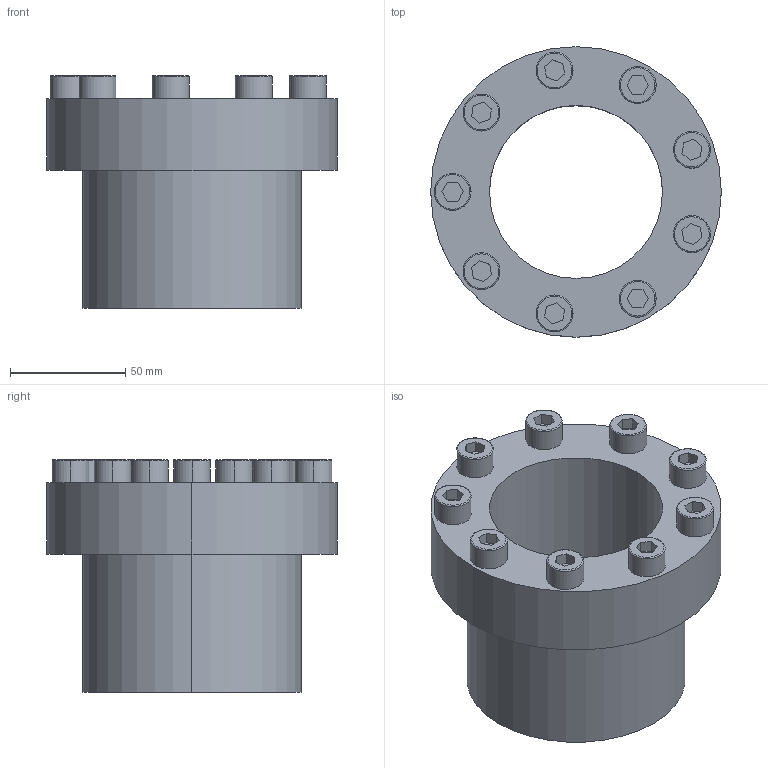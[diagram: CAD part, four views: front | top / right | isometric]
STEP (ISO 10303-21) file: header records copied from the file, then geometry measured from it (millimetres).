
FILE_DESCRIPTION (( 'STEP AP203' ), '1' );
FILE_NAME ('PL-C 75-95.STEP', '2021-10-22T08:46:30', ( '' ), ( '' ), 'SwSTEP 2.0', 'SolidWorks 2018', '' );
FILE_SCHEMA (( 'CONFIG_CONTROL_DESIGN' ));
Length unit declared in the file: millimetre
Products named in the file (1): PL-C 75-95
Bounding box: 126 x 126 x 101 mm (x, y, z)
Volume: 423594.5 mm3; surface area: 73356.9 mm2
Topology: 1 solids, 1 shells, 117 faces, 270 edges, 174 vertices
Faces by surface type: plane 75, cylinder 24, torus 18
Entity records: 3385 total; most frequent: DIRECTION 590, CARTESIAN_POINT 562, ORIENTED_EDGE 540, EDGE_CURVE 270, AXIS2_PLACEMENT_3D 202, LINE 186, VECTOR 186, VERTEX_POINT 174
